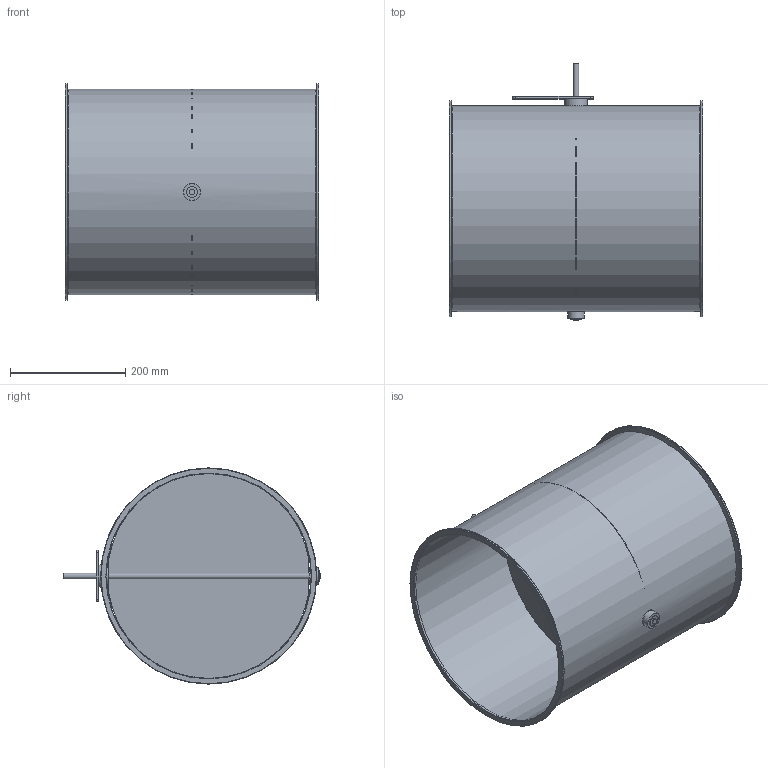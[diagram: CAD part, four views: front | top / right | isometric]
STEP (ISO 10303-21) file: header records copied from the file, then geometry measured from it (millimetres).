
FILE_DESCRIPTION(/* description */ (''),/* implementation_level */ '2;1');
FILE_NAME(/* name */ 'EA107-80B__355_L440_Belimo_Typ_NM.stp',/* time_stamp */ '2017-12-06T15:21:05+01:00',/* author */ (''),/* organization */ (''),/* preprocessor_version */ 'ST-DEVELOPER v11',/* originating_system */ 'SIEMENS UGS NX 6.0',/* authorisation */ '');
FILE_SCHEMA (('CONFIG_CONTROL_DESIGN'));
Length unit declared in the file: millimetre
Products named in the file (1): gars18E2j2e5
Bounding box: 440 x 445 x 375 mm (x, y, z)
Volume: 710043.3 mm3; surface area: 1273491.1 mm2
Topology: 8 solids, 8 shells, 60 faces, 126 edges, 84 vertices
Faces by surface type: cylinder 28, plane 24, torus 6, cone 2
Full cylindrical faces by diameter (mm): 4.1 x4, 10 x3, 19 x3, 19.85 x2, 20 x2, 29 x1, 30 x2, 39 x1, 355 x1, 356.6 x1, 375 x2
Entity records: 1568 total; most frequent: CARTESIAN_POINT 289, DIRECTION 262, ORIENTED_EDGE 172, AXIS2_PLACEMENT_3D 119, EDGE_LOOP 116, FACE_BOUND 102, EDGE_CURVE 86, VERTEX_POINT 74
